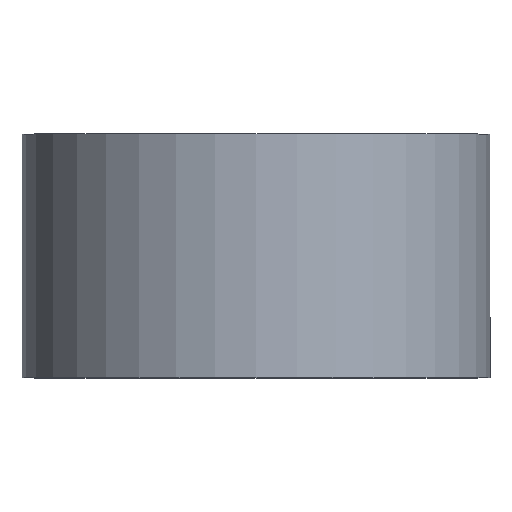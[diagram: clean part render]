
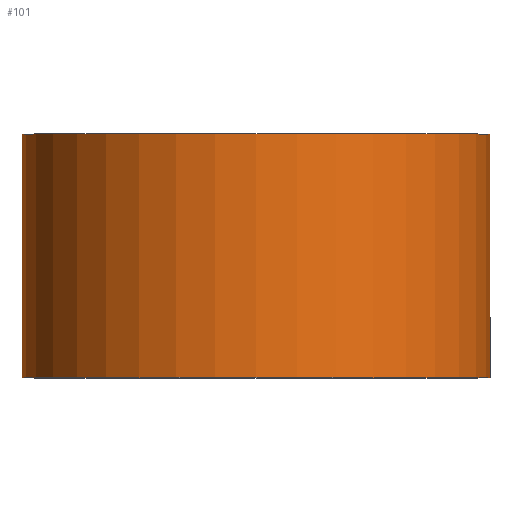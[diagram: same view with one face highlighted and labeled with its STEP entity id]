
A CAD part, top view. The second image highlights one B-rep face of the part: STEP entity #101.
In plain terms, the highlighted cylindrical face has radius 24 mm (diameter 48 mm), a partial arc.
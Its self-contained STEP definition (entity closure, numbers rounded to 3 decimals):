
#1 = CARTESIAN_POINT ( 'NONE',  ( 0., 0., 0. ) ) ;
#7 = EDGE_CURVE ( 'NONE', #113, #266, #108, .T. ) ;
#13 = ORIENTED_EDGE ( 'NONE', *, *, #237, .T. ) ;
#23 = CYLINDRICAL_SURFACE ( 'NONE', #129, 24. ) ;
#35 = VECTOR ( 'NONE', #284, 1000. ) ;
#37 = CARTESIAN_POINT ( 'NONE',  ( 24., 25., 0. ) ) ;
#41 = FACE_OUTER_BOUND ( 'NONE', #161, .T. ) ;
#44 = VECTOR ( 'NONE', #204, 1000. ) ;
#46 = DIRECTION ( 'NONE',  ( -1., 0., 0. ) ) ;
#54 = CARTESIAN_POINT ( 'NONE',  ( 24., 0., 0. ) ) ;
#56 = DIRECTION ( 'NONE',  ( -1., 0., 0. ) ) ;
#60 = CIRCLE ( 'NONE', #217, 24. ) ;
#79 = CARTESIAN_POINT ( 'NONE',  ( -24., 0., 0. ) ) ;
#82 = DIRECTION ( 'NONE',  ( 0., 1., 0. ) ) ;
#89 = ORIENTED_EDGE ( 'NONE', *, *, #283, .T. ) ;
#93 = ORIENTED_EDGE ( 'NONE', *, *, #7, .F. ) ;
#101 = ADVANCED_FACE ( 'NONE', ( #41 ), #23, .T. ) ;
#108 = CIRCLE ( 'NONE', #229, 24. ) ;
#113 = VERTEX_POINT ( 'NONE', #146 ) ;
#123 = CARTESIAN_POINT ( 'NONE',  ( 24., 0., 0. ) ) ;
#129 = AXIS2_PLACEMENT_3D ( 'NONE', #247, #299, #56 ) ;
#139 = ORIENTED_EDGE ( 'NONE', *, *, #264, .F. ) ;
#146 = CARTESIAN_POINT ( 'NONE',  ( -24., 25., 0. ) ) ;
#161 = EDGE_LOOP ( 'NONE', ( #89, #13, #93, #139 ) ) ;
#184 = VERTEX_POINT ( 'NONE', #225 ) ;
#196 = CARTESIAN_POINT ( 'NONE',  ( 0., 25., 0. ) ) ;
#204 = DIRECTION ( 'NONE',  ( 0., 1., 0. ) ) ;
#207 = VERTEX_POINT ( 'NONE', #123 ) ;
#217 = AXIS2_PLACEMENT_3D ( 'NONE', #1, #82, #282 ) ;
#223 = LINE ( 'NONE', #54, #44 ) ;
#225 = CARTESIAN_POINT ( 'NONE',  ( -24., 0., 0. ) ) ;
#229 = AXIS2_PLACEMENT_3D ( 'NONE', #196, #270, #46 ) ;
#237 = EDGE_CURVE ( 'NONE', #207, #266, #223, .T. ) ;
#247 = CARTESIAN_POINT ( 'NONE',  ( 0., 0., 0. ) ) ;
#264 = EDGE_CURVE ( 'NONE', #184, #113, #292, .T. ) ;
#266 = VERTEX_POINT ( 'NONE', #37 ) ;
#270 = DIRECTION ( 'NONE',  ( 0., 1., 0. ) ) ;
#282 = DIRECTION ( 'NONE',  ( -1., 0., 0. ) ) ;
#283 = EDGE_CURVE ( 'NONE', #184, #207, #60, .T. ) ;
#284 = DIRECTION ( 'NONE',  ( 0., 1., 0. ) ) ;
#292 = LINE ( 'NONE', #79, #35 ) ;
#299 = DIRECTION ( 'NONE',  ( 0., 1., 0. ) ) ;
